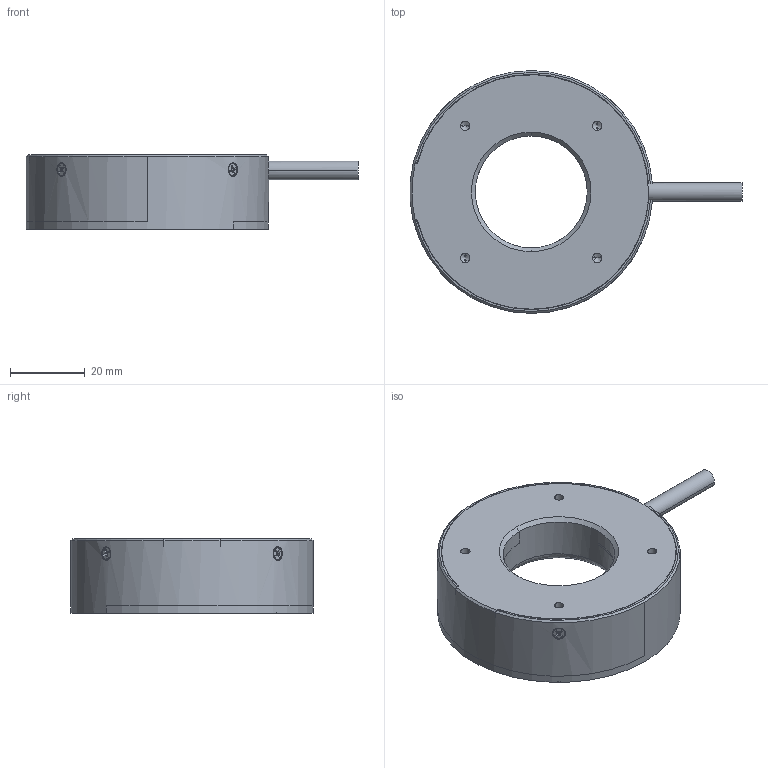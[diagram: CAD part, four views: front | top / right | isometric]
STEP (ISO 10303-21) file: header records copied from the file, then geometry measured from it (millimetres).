
FILE_DESCRIPTION((''),'2;1');
FILE_NAME('MV-LRDS-H-65-60-W','2022-09-02T14:00:19',('qiaoxuan5'),(''),'CREO PARAMETRIC BY PTC INC, 2020044','CREO PARAMETRIC BY PTC INC, 2020044','');
FILE_SCHEMA(('CONFIG_CONTROL_DESIGN'));
Length unit declared in the file: metre
Products named in the file (1): MV-LRDS-H-65-60-W
Bounding box: 88.88 x 65 x 20 mm (x, y, z)
Volume: 46962 mm3; surface area: 12482.2 mm2
Topology: 1 solids, 18 shells, 470 faces, 1137 edges, 691 vertices
Faces by surface type: plane 265, cylinder 129, cone 72, torus 4
Entity records: 13679 total; most frequent: CARTESIAN_POINT 2807, DIRECTION 2234, ORIENTED_EDGE 2226, EDGE_CURVE 1113, AXIS2_PLACEMENT_3D 759, VECTOR 716, LINE 716, VERTEX_POINT 691
